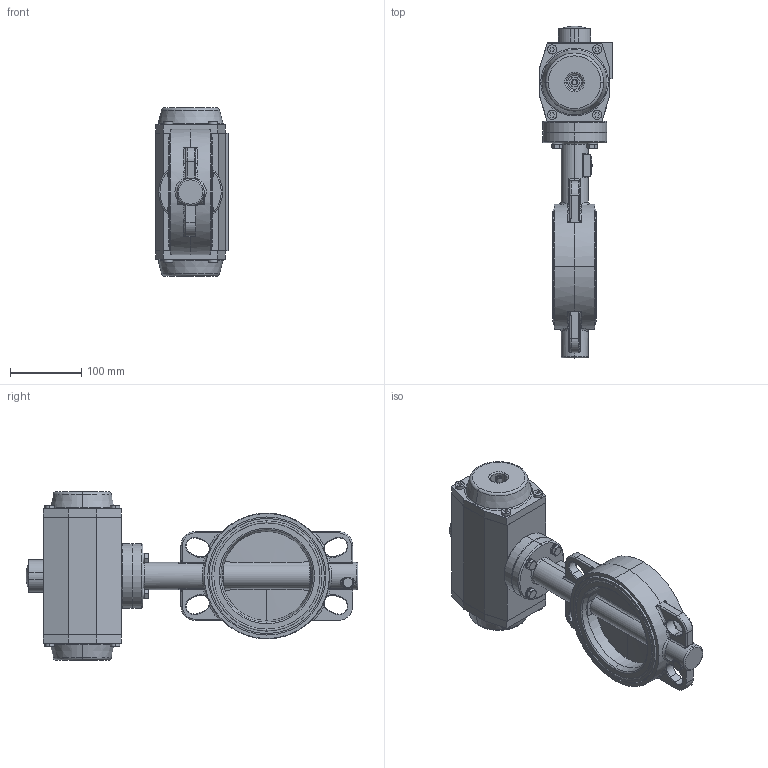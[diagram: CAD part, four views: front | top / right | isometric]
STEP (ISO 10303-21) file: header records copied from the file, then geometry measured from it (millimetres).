
FILE_DESCRIPTION (( 'STEP AP214' ), '1' );
FILE_NAME ('VTB200 DN125 + AP3.5D.STEP', '2015-10-04T19:18:59', ( '' ), ( '' ), 'SwSTEP 2.0', 'SolidWorks 2013', '' );
FILE_SCHEMA (( 'AUTOMOTIVE_DESIGN' ));
Length unit declared in the file: millimetre
Products named in the file (10): plain washer clevis pin grade a_din_Washer ISO 8738 - 8; VERLSTER17_14; AP3.5_Default<As Machined>; YF090F5F7H16D16NYL; VTB200 Wafer DN125 BS; Typeplaatje xxmm; Klep VTB200 DN125 2013; Huis met zitting DN125 2013; VTB200 DN125 + AP3.5D; hex bolt gradec_din_ISO 4016 - M8 x 40 x 22-WN
Assembly tree (15 placements, depth 3):
  VTB200 DN125 + AP3.5D
    VTB200 Wafer DN125 BS
      Huis met zitting DN125 2013
      Klep VTB200 DN125 2013
      Typeplaatje xxmm
    YF090F5F7H16D16NYL
    AP3.5_Default<As Machined>
    VERLSTER17_14
    plain washer clevis pin grade a_din_Washer ISO 8738 - 8  x4
    hex bolt gradec_din_ISO 4016 - M8 x 40 x 22-WN  x4
Bounding box: 102 x 465.99 x 236 mm (x, y, z)
Volume: 3549090.2 mm3; surface area: 361390.1 mm2
Topology: 21 solids, 22 shells, 1042 faces, 2510 edges, 1544 vertices
Faces by surface type: plane 420, cylinder 284, bspline 132, torus 111, cone 78, sphere 17
Entity records: 40571 total; most frequent: CARTESIAN_POINT 16499, ORIENTED_EDGE 4532, DIRECTION 4427, EDGE_CURVE 2266, AXIS2_PLACEMENT_3D 1682, VERTEX_POINT 1424, LINE 1063, VECTOR 1063
